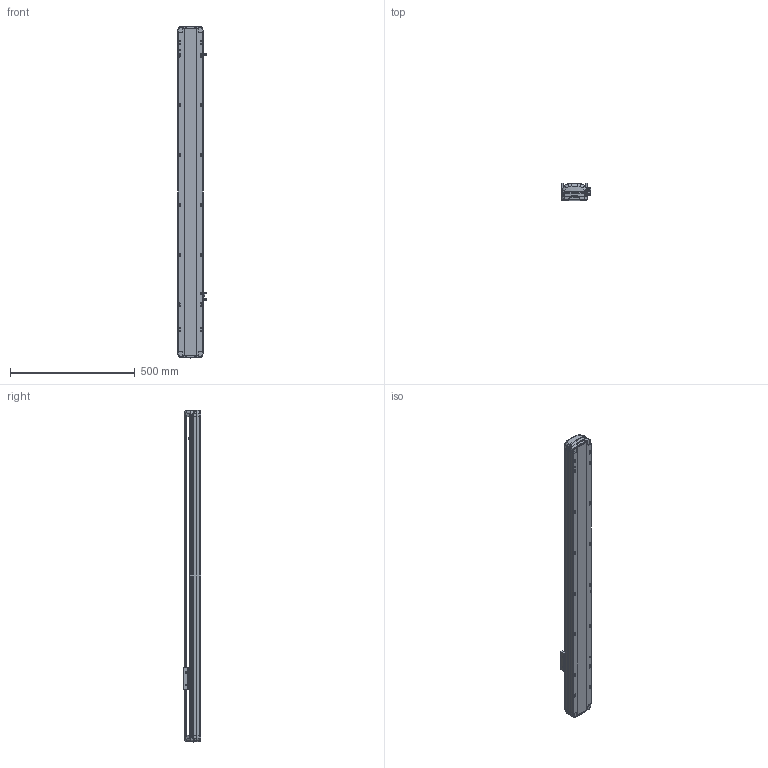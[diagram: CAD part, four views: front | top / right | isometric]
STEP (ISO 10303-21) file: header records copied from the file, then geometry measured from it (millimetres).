
FILE_DESCRIPTION (( 'STEP AP214' ), '1' );
FILE_NAME ('RTH10-XX-950-B-M10-C4.STEP', '2025-10-25T05:17:37', ( 'Microsoft' ), ( 'Microsoft' ), 'SwSTEP 2.0', 'SolidWorks 2018', '' );
FILE_SCHEMA (( 'AUTOMOTIVE_DESIGN' ));
Length unit declared in the file: millimetre
Products named in the file (7): N_RTH13-L-012覜茼え俋离^RTH10-XX-XX-B-M10-C4; N_RTH12-B-007P-奻裔^RTH10-XX-XX-B-M10-C4; RTH10-XX-950-B-M10-C4; N_RTH12-GY-004-賑釱^RTH10-XX-XX-B-M10-C4; N_RTH12-B-011P-臏倰第菁釱^RTH10-XX-XX-B-M10-C4; N_OMRON EE-SX672 传感器^RTH10-XX-XX-B-M10-C4; N_RTH12-GY-001P^RTH10-XX-XX-B-M10-C4
Assembly tree (9 placements, depth 2):
  RTH10-XX-950-B-M10-C4
    N_RTH12-B-011P-臏倰第菁釱^RTH10-XX-XX-B-M10-C4
    N_RTH13-L-012覜茼え俋离^RTH10-XX-XX-B-M10-C4
    N_OMRON EE-SX672 传感器^RTH10-XX-XX-B-M10-C4  x3
    N_RTH12-B-007P-奻裔^RTH10-XX-XX-B-M10-C4
    N_RTH12-GY-004-賑釱^RTH10-XX-XX-B-M10-C4
    N_RTH12-GY-001P^RTH10-XX-XX-B-M10-C4  x2
Bounding box: 116.5 x 70 x 1329.61 mm (x, y, z)
Volume: 4967930.8 mm3; surface area: 788582.9 mm2
Topology: 7 solids, 11 shells, 2240 faces, 6298 edges, 4124 vertices
Faces by surface type: plane 1061, bspline 712, cylinder 447, cone 16, torus 4
Entity records: 51170 total; most frequent: CARTESIAN_POINT 22018, ORIENTED_EDGE 6724, DIRECTION 4786, EDGE_CURVE 3368, VERTEX_POINT 2211, LINE 1720, VECTOR 1720, AXIS2_PLACEMENT_3D 1533
